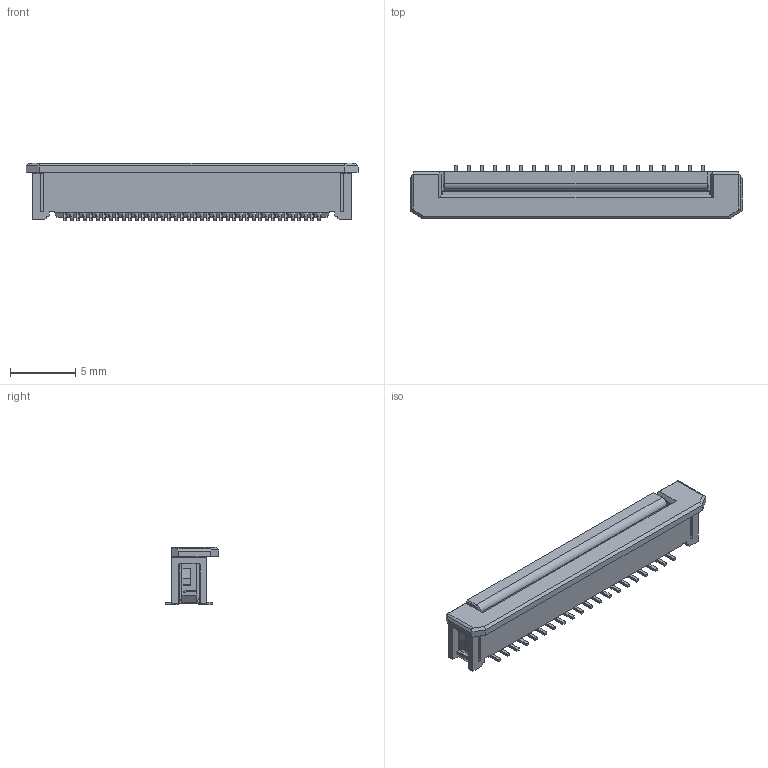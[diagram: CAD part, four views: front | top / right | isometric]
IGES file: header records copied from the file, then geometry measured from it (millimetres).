
Start section: START RECORD GO HERE.
Global section: file name: 00_6274_040_000_894_+.igs; native system: IBM CATIA IGES - CATIA Version 5 Release 14 ; preprocessor: CATIA Version 5 Release 14 ; author: Engineering Dept.; organization: KYOCERA ELCO Corporation; date: 20080326.133451; units: millimetre
Bounding box: 25.5 x 4.1 x 4.4 mm (x, y, z)
Surface area: 733.8 mm2 (no closed solid volume)
Topology: 0 solids, 0 shells, 1030 faces, 6240 edges, 6238 vertices
Faces by surface type: plane 751, revolution 279
